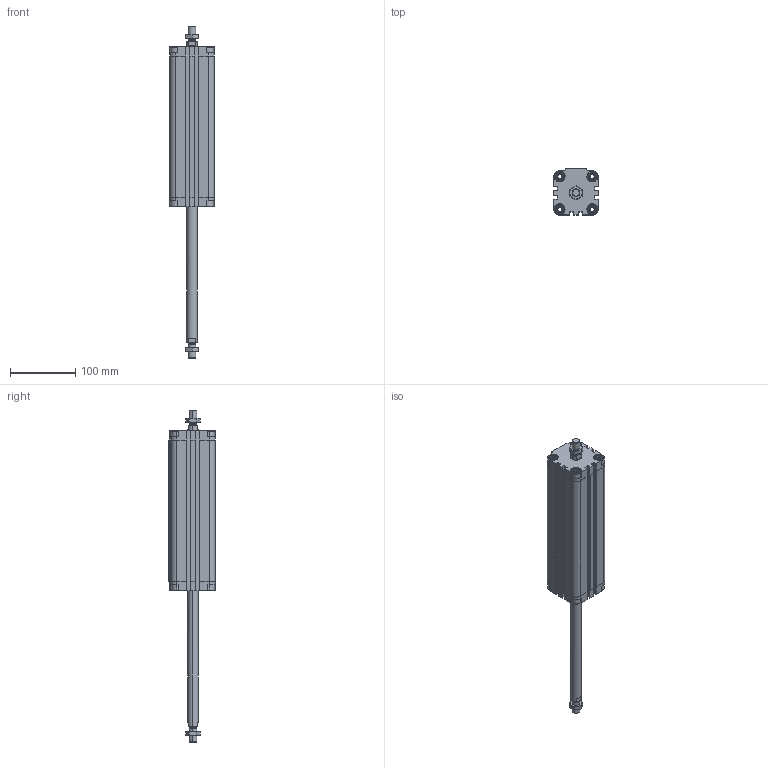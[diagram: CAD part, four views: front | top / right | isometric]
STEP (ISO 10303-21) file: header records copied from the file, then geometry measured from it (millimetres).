
FILE_DESCRIPTION (( 'STEP AP203' ), '1' );
FILE_NAME ('CDVU50-200M-P.STEP', '2020-07-21T15:21:01', ( '' ), ( '' ), 'SwSTEP 2.0', 'SolidWorks 2019', '' );
FILE_SCHEMA (( 'CONFIG_CONTROL_DESIGN' ));
Length unit declared in the file: millimetre
Products named in the file (1): CDVU50-200M-P
Bounding box: 68 x 71 x 508.5 mm (x, y, z)
Volume: 712307.7 mm3; surface area: 194824.6 mm2
Topology: 4 solids, 4 shells, 758 faces, 2004 edges, 1290 vertices
Faces by surface type: plane 438, cylinder 240, cone 64, torus 16
Entity records: 24259 total; most frequent: CARTESIAN_POINT 5321, ORIENTED_EDGE 4000, DIRECTION 3878, EDGE_CURVE 2000, AXIS2_PLACEMENT_3D 1335, VERTEX_POINT 1290, VECTOR 1208, LINE 1208
